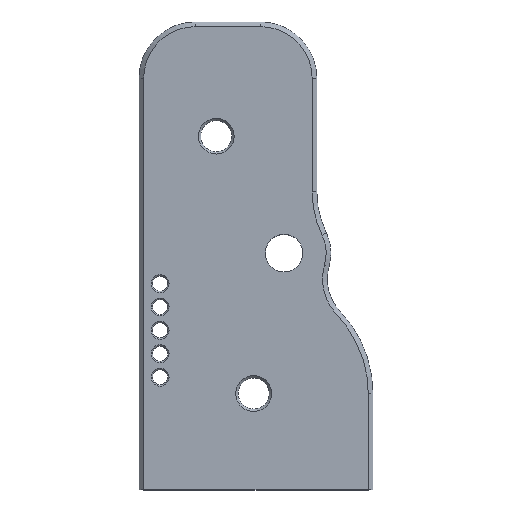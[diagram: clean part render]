
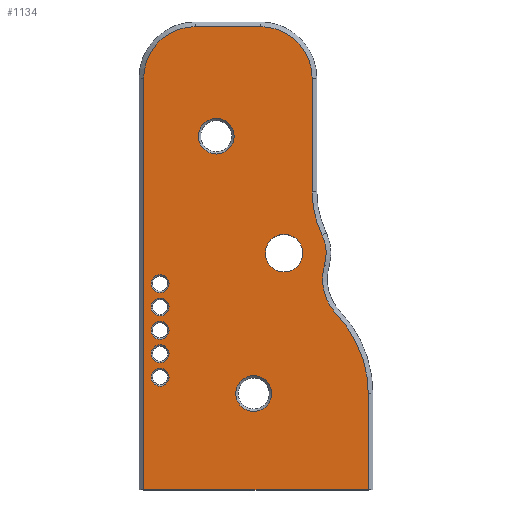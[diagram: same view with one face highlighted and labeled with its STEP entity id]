
A CAD part, top view. The second image highlights one B-rep face of the part: STEP entity #1134.
In plain terms, the highlighted planar face has unit normal (0, 0, 1).
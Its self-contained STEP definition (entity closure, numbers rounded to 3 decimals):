
#26=FACE_BOUND('',#147,.T.);
#27=FACE_BOUND('',#148,.T.);
#28=FACE_BOUND('',#149,.T.);
#29=FACE_BOUND('',#150,.T.);
#30=FACE_BOUND('',#151,.T.);
#31=FACE_BOUND('',#152,.T.);
#32=FACE_BOUND('',#153,.T.);
#33=FACE_BOUND('',#154,.T.);
#38=PLANE('',#1240);
#73=FACE_OUTER_BOUND('',#146,.T.);
#146=EDGE_LOOP('',(#748,#749,#750,#751,#752,#753,#754,#755,#756,#757,#758));
#147=EDGE_LOOP('',(#759));
#148=EDGE_LOOP('',(#760));
#149=EDGE_LOOP('',(#761));
#150=EDGE_LOOP('',(#762));
#151=EDGE_LOOP('',(#763));
#152=EDGE_LOOP('',(#764));
#153=EDGE_LOOP('',(#765));
#154=EDGE_LOOP('',(#766));
#226=LINE('',#1780,#309);
#227=LINE('',#1782,#310);
#228=LINE('',#1784,#311);
#229=LINE('',#1794,#312);
#230=LINE('',#1798,#313);
#309=VECTOR('',#1414,10.);
#310=VECTOR('',#1415,10.);
#311=VECTOR('',#1416,10.);
#312=VECTOR('',#1425,10.);
#313=VECTOR('',#1428,10.);
#401=CIRCLE('',#1239,1.921);
#402=CIRCLE('',#1241,24.5);
#403=CIRCLE('',#1242,11.);
#404=CIRCLE('',#1243,9.);
#405=CIRCLE('',#1244,21.);
#406=CIRCLE('',#1245,11.);
#407=CIRCLE('',#1246,11.);
#408=CIRCLE('',#1247,1.921);
#409=CIRCLE('',#1248,1.921);
#410=CIRCLE('',#1249,4.);
#411=CIRCLE('',#1250,3.824);
#412=CIRCLE('',#1251,3.824);
#413=CIRCLE('',#1252,1.921);
#414=CIRCLE('',#1253,1.921);
#481=VERTEX_POINT('',#1774);
#482=VERTEX_POINT('',#1778);
#483=VERTEX_POINT('',#1779);
#484=VERTEX_POINT('',#1781);
#485=VERTEX_POINT('',#1783);
#486=VERTEX_POINT('',#1785);
#487=VERTEX_POINT('',#1787);
#488=VERTEX_POINT('',#1789);
#489=VERTEX_POINT('',#1791);
#490=VERTEX_POINT('',#1793);
#491=VERTEX_POINT('',#1795);
#492=VERTEX_POINT('',#1797);
#493=VERTEX_POINT('',#1800);
#494=VERTEX_POINT('',#1802);
#495=VERTEX_POINT('',#1804);
#496=VERTEX_POINT('',#1806);
#497=VERTEX_POINT('',#1808);
#498=VERTEX_POINT('',#1810);
#499=VERTEX_POINT('',#1812);
#581=EDGE_CURVE('',#481,#481,#401,.T.);
#583=EDGE_CURVE('',#482,#483,#226,.T.);
#584=EDGE_CURVE('',#482,#484,#227,.T.);
#585=EDGE_CURVE('',#485,#484,#228,.T.);
#586=EDGE_CURVE('',#486,#485,#402,.T.);
#587=EDGE_CURVE('',#487,#486,#403,.T.);
#588=EDGE_CURVE('',#488,#487,#404,.T.);
#589=EDGE_CURVE('',#489,#488,#405,.T.);
#590=EDGE_CURVE('',#490,#489,#229,.T.);
#591=EDGE_CURVE('',#491,#490,#406,.T.);
#592=EDGE_CURVE('',#492,#491,#230,.T.);
#593=EDGE_CURVE('',#483,#492,#407,.T.);
#594=EDGE_CURVE('',#493,#493,#408,.T.);
#595=EDGE_CURVE('',#494,#494,#409,.T.);
#596=EDGE_CURVE('',#495,#495,#410,.T.);
#597=EDGE_CURVE('',#496,#496,#411,.T.);
#598=EDGE_CURVE('',#497,#497,#412,.T.);
#599=EDGE_CURVE('',#498,#498,#413,.T.);
#600=EDGE_CURVE('',#499,#499,#414,.T.);
#748=ORIENTED_EDGE('',*,*,#583,.F.);
#749=ORIENTED_EDGE('',*,*,#584,.T.);
#750=ORIENTED_EDGE('',*,*,#585,.F.);
#751=ORIENTED_EDGE('',*,*,#586,.F.);
#752=ORIENTED_EDGE('',*,*,#587,.F.);
#753=ORIENTED_EDGE('',*,*,#588,.F.);
#754=ORIENTED_EDGE('',*,*,#589,.F.);
#755=ORIENTED_EDGE('',*,*,#590,.F.);
#756=ORIENTED_EDGE('',*,*,#591,.F.);
#757=ORIENTED_EDGE('',*,*,#592,.F.);
#758=ORIENTED_EDGE('',*,*,#593,.F.);
#759=ORIENTED_EDGE('',*,*,#594,.F.);
#760=ORIENTED_EDGE('',*,*,#595,.F.);
#761=ORIENTED_EDGE('',*,*,#596,.T.);
#762=ORIENTED_EDGE('',*,*,#597,.F.);
#763=ORIENTED_EDGE('',*,*,#598,.F.);
#764=ORIENTED_EDGE('',*,*,#599,.F.);
#765=ORIENTED_EDGE('',*,*,#600,.F.);
#766=ORIENTED_EDGE('',*,*,#581,.F.);
#1134=ADVANCED_FACE('',(#73,#26,#27,#28,#29,#30,#31,#32,#33),#38,.T.);
#1239=AXIS2_PLACEMENT_3D('',#1775,#1409,#1410);
#1240=AXIS2_PLACEMENT_3D('',#1777,#1412,#1413);
#1241=AXIS2_PLACEMENT_3D('',#1786,#1417,#1418);
#1242=AXIS2_PLACEMENT_3D('',#1788,#1419,#1420);
#1243=AXIS2_PLACEMENT_3D('',#1790,#1421,#1422);
#1244=AXIS2_PLACEMENT_3D('',#1792,#1423,#1424);
#1245=AXIS2_PLACEMENT_3D('',#1796,#1426,#1427);
#1246=AXIS2_PLACEMENT_3D('',#1799,#1429,#1430);
#1247=AXIS2_PLACEMENT_3D('',#1801,#1431,#1432);
#1248=AXIS2_PLACEMENT_3D('',#1803,#1433,#1434);
#1249=AXIS2_PLACEMENT_3D('',#1805,#1435,#1436);
#1250=AXIS2_PLACEMENT_3D('',#1807,#1437,#1438);
#1251=AXIS2_PLACEMENT_3D('',#1809,#1439,#1440);
#1252=AXIS2_PLACEMENT_3D('',#1811,#1441,#1442);
#1253=AXIS2_PLACEMENT_3D('',#1813,#1443,#1444);
#1409=DIRECTION('center_axis',(0.,0.,1.));
#1410=DIRECTION('ref_axis',(-1.,0.,0.));
#1412=DIRECTION('center_axis',(0.,0.,1.));
#1413=DIRECTION('ref_axis',(1.,0.,0.));
#1414=DIRECTION('',(0.,1.,0.));
#1415=DIRECTION('',(1.,0.,0.));
#1416=DIRECTION('',(0.,-1.,0.));
#1417=DIRECTION('center_axis',(0.,0.,-1.));
#1418=DIRECTION('ref_axis',(1.,0.,0.));
#1419=DIRECTION('center_axis',(0.,0.,1.));
#1420=DIRECTION('ref_axis',(-0.961,0.277,0.));
#1421=DIRECTION('center_axis',(0.,0.,-1.));
#1422=DIRECTION('ref_axis',(0.961,-0.277,0.));
#1423=DIRECTION('center_axis',(0.,0.,1.));
#1424=DIRECTION('ref_axis',(-1.,0.,0.));
#1425=DIRECTION('',(0.,-1.,0.));
#1426=DIRECTION('center_axis',(0.,0.,-1.));
#1427=DIRECTION('ref_axis',(1.,0.,0.));
#1428=DIRECTION('',(1.,0.,0.));
#1429=DIRECTION('center_axis',(0.,0.,-1.));
#1430=DIRECTION('ref_axis',(0.,1.,0.));
#1431=DIRECTION('center_axis',(0.,0.,1.));
#1432=DIRECTION('ref_axis',(-1.,0.,0.));
#1433=DIRECTION('center_axis',(0.,0.,1.));
#1434=DIRECTION('ref_axis',(-1.,0.,0.));
#1435=DIRECTION('center_axis',(0.,0.,-1.));
#1436=DIRECTION('ref_axis',(1.,0.,0.));
#1437=DIRECTION('center_axis',(0.,0.,1.));
#1438=DIRECTION('ref_axis',(-1.,0.,0.));
#1439=DIRECTION('center_axis',(0.,0.,1.));
#1440=DIRECTION('ref_axis',(-1.,0.,0.));
#1441=DIRECTION('center_axis',(0.,0.,1.));
#1442=DIRECTION('ref_axis',(-1.,0.,0.));
#1443=DIRECTION('center_axis',(0.,0.,1.));
#1444=DIRECTION('ref_axis',(-1.,0.,0.));
#1774=CARTESIAN_POINT('',(-80.079,37.094,10.));
#1775=CARTESIAN_POINT('Origin',(-82.,37.094,10.));
#1777=CARTESIAN_POINT('Origin',(-56.25,72.8,10.));
#1778=CARTESIAN_POINT('',(-85.5,13.,10.));
#1779=CARTESIAN_POINT('',(-85.5,101.,10.));
#1780=CARTESIAN_POINT('',(-85.5,102.7,10.));
#1781=CARTESIAN_POINT('',(-37.5,13.,10.));
#1782=CARTESIAN_POINT('',(-90.,13.,10.));
#1783=CARTESIAN_POINT('',(-37.5,33.6,10.));
#1784=CARTESIAN_POINT('',(-37.5,53.2,10.));
#1785=CARTESIAN_POINT('',(-44.25,50.487,10.));
#1786=CARTESIAN_POINT('Origin',(-62.,33.6,10.));
#1787=CARTESIAN_POINT('',(-46.851,61.111,10.));
#1788=CARTESIAN_POINT('Origin',(-36.28,58.069,10.));
#1789=CARTESIAN_POINT('',(-47.4,67.523,10.));
#1790=CARTESIAN_POINT('Origin',(-55.5,63.6,10.));
#1791=CARTESIAN_POINT('',(-49.5,76.677,10.));
#1792=CARTESIAN_POINT('Origin',(-28.5,76.677,10.));
#1793=CARTESIAN_POINT('',(-49.5,101.,10.));
#1794=CARTESIAN_POINT('',(-49.5,86.9,10.));
#1795=CARTESIAN_POINT('',(-60.5,112.,10.));
#1796=CARTESIAN_POINT('Origin',(-60.5,101.,10.));
#1797=CARTESIAN_POINT('',(-74.5,112.,10.));
#1798=CARTESIAN_POINT('',(-65.375,112.,10.));
#1799=CARTESIAN_POINT('Origin',(-74.5,101.,10.));
#1800=CARTESIAN_POINT('',(-80.079,42.094,10.));
#1801=CARTESIAN_POINT('Origin',(-82.,42.094,10.));
#1802=CARTESIAN_POINT('',(-80.079,52.094,10.));
#1803=CARTESIAN_POINT('Origin',(-82.,52.094,10.));
#1804=CARTESIAN_POINT('',(-59.5,63.6,10.));
#1805=CARTESIAN_POINT('Origin',(-55.5,63.6,10.));
#1806=CARTESIAN_POINT('',(-58.177,33.6,10.));
#1807=CARTESIAN_POINT('Origin',(-62.,33.6,10.));
#1808=CARTESIAN_POINT('',(-66.177,88.6,10.));
#1809=CARTESIAN_POINT('Origin',(-70.,88.6,10.));
#1810=CARTESIAN_POINT('',(-80.079,57.094,10.));
#1811=CARTESIAN_POINT('Origin',(-82.,57.094,10.));
#1812=CARTESIAN_POINT('',(-80.079,47.094,10.));
#1813=CARTESIAN_POINT('Origin',(-82.,47.094,10.));
